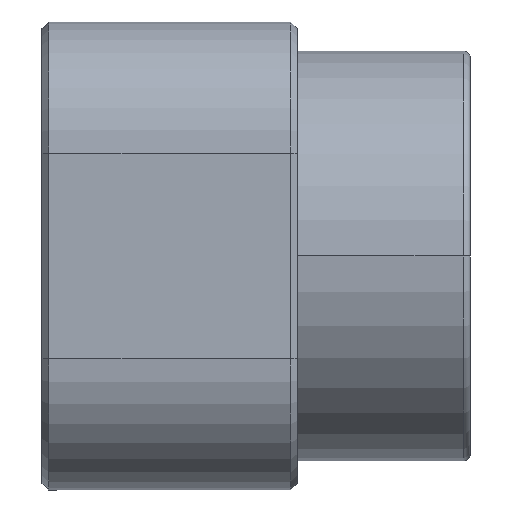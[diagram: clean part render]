
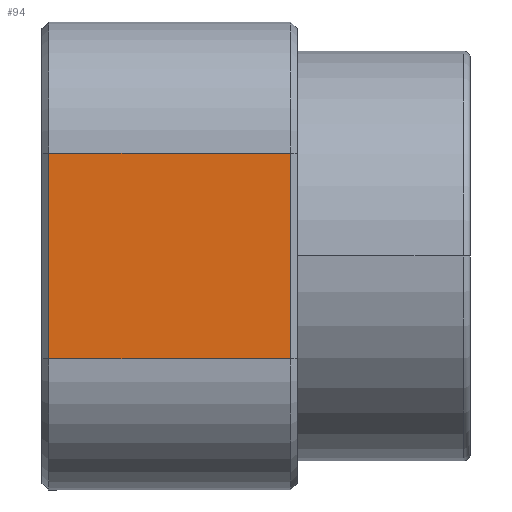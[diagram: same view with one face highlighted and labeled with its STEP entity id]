
A CAD part, left-side view. The second image highlights one B-rep face of the part: STEP entity #94.
In plain terms, the highlighted planar face has unit normal (-1, 0, 0).
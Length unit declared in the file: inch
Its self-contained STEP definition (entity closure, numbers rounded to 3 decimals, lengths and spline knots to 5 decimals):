
#11 = EDGE_CURVE ( 'NONE', #188, #120, #481, .T. ) ;
#27 = EDGE_LOOP ( 'NONE', ( #79, #86, #189, #69 ) ) ;
#33 = VERTEX_POINT ( 'NONE', #592 ) ;
#68 = VERTEX_POINT ( 'NONE', #623 ) ;
#69 = ORIENTED_EDGE ( 'NONE', *, *, #11, .T. ) ;
#79 = ORIENTED_EDGE ( 'NONE', *, *, #192, .T. ) ;
#86 = ORIENTED_EDGE ( 'NONE', *, *, #193, .T. ) ;
#94 = ADVANCED_FACE ( 'NONE', ( #679 ), #684, .T. ) ;
#120 = VERTEX_POINT ( 'NONE', #714 ) ;
#188 = VERTEX_POINT ( 'NONE', #825 ) ;
#189 = ORIENTED_EDGE ( 'NONE', *, *, #210, .T. ) ;
#192 = EDGE_CURVE ( 'NONE', #120, #68, #819, .T. ) ;
#193 = EDGE_CURVE ( 'NONE', #68, #33, #873, .T. ) ;
#210 = EDGE_CURVE ( 'NONE', #33, #188, #885, .T. ) ;
#480 = CARTESIAN_POINT ( 'NONE',  ( -1.24, -0.6775, 0.02 ) ) ;
#481 = LINE ( 'NONE', #480, #567 ) ;
#566 = DIRECTION ( 'NONE',  ( 0., -1., 0. ) ) ;
#567 = VECTOR ( 'NONE', #566, 39.37008 ) ;
#592 = CARTESIAN_POINT ( 'NONE',  ( -1.24, 0.2975, 0.72 ) ) ;
#623 = CARTESIAN_POINT ( 'NONE',  ( -1.24, -0.2975, 0.72 ) ) ;
#632 = CARTESIAN_POINT ( 'NONE',  ( -1.24, -0.6775, 0.74 ) ) ;
#679 = FACE_OUTER_BOUND ( 'NONE', #27, .T. ) ;
#682 = DIRECTION ( 'NONE',  ( 0., 0., 1. ) ) ;
#683 = DIRECTION ( 'NONE',  ( -1., 0., 0. ) ) ;
#684 = PLANE ( 'NONE',  #692 ) ;
#692 = AXIS2_PLACEMENT_3D ( 'NONE', #632, #683, #682 ) ;
#714 = CARTESIAN_POINT ( 'NONE',  ( -1.24, -0.2975, 0.02 ) ) ;
#817 = VECTOR ( 'NONE', #875, 39.37008 ) ;
#818 = CARTESIAN_POINT ( 'NONE',  ( -1.24, -0.2975, 0.74 ) ) ;
#819 = LINE ( 'NONE', #818, #817 ) ;
#825 = CARTESIAN_POINT ( 'NONE',  ( -1.24, 0.2975, 0.02 ) ) ;
#870 = DIRECTION ( 'NONE',  ( 0., 1., 0. ) ) ;
#871 = VECTOR ( 'NONE', #870, 39.37008 ) ;
#872 = CARTESIAN_POINT ( 'NONE',  ( -1.24, 0.2975, 0.72 ) ) ;
#873 = LINE ( 'NONE', #872, #871 ) ;
#875 = DIRECTION ( 'NONE',  ( 0., 0., 1. ) ) ;
#882 = DIRECTION ( 'NONE',  ( 0., 0., -1. ) ) ;
#883 = VECTOR ( 'NONE', #882, 39.37008 ) ;
#884 = CARTESIAN_POINT ( 'NONE',  ( -1.24, 0.2975, 0.74 ) ) ;
#885 = LINE ( 'NONE', #884, #883 ) ;
